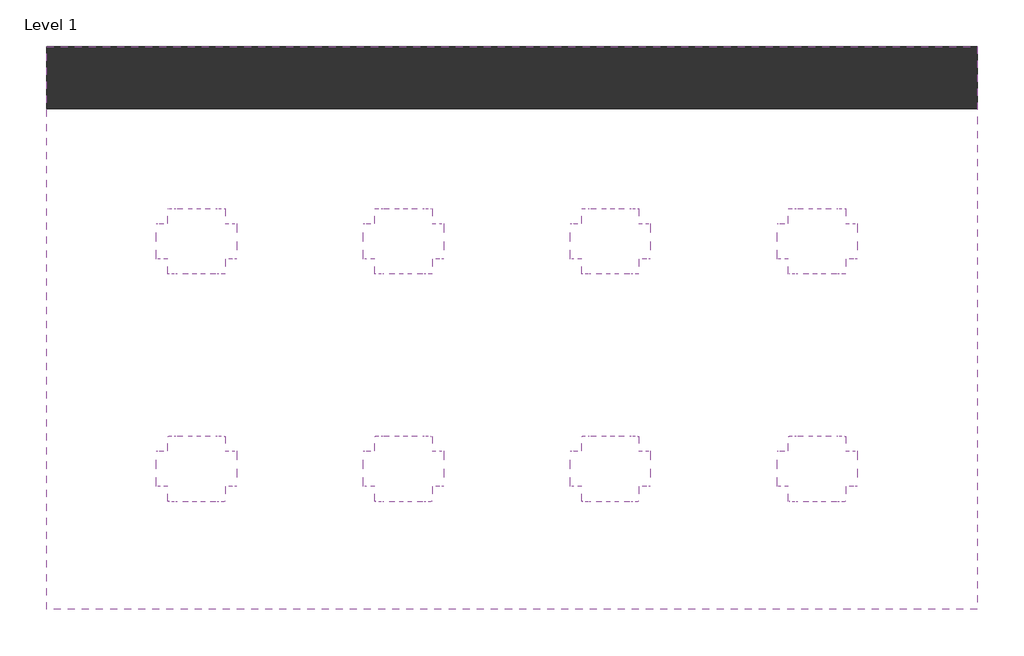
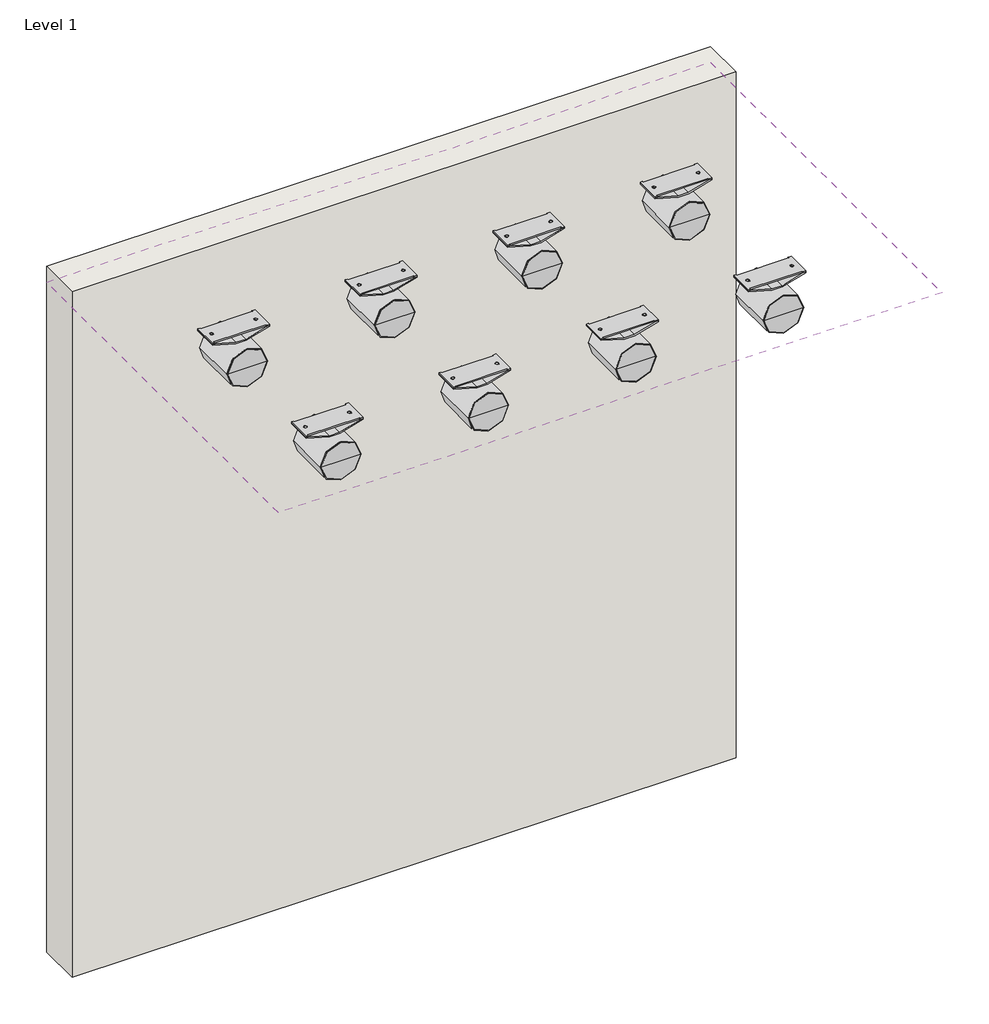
# One storey: 8 proxies, 1 covering, 1 wall.
"""IFC4 building model written with IfcOpenShell, lengths in millimetres."""

import ifcopenshell
import ifcopenshell.guid

model = None  # the IFC model being written
_history = None  # IfcOwnerHistory: only IFC2X3 demands one
_inside = {}  # id of a spatial element -> (the spatial element, [elements in it])
_under = {}  # id of a project, library or spatial element -> (it, [spatial elements below it])
_declared = {}  # id of a project -> (the project, [libraries it declares])
_typed = {}  # id of a type object -> (the type object, [elements of that type])
_made_of = {}  # id of a material, layer set ... -> (it, [elements and type objects made of it])


def new_model(schema):
    """Start an empty IFC model of exactly this schema.

    Asked for "IFC4X3", IfcOpenShell would pick the latest addendum, in which some entities
    have other attributes; the version numbers below select the first issue.
    IFC2X3 requires an IfcOwnerHistory on every rooted entity: one is made here for all.
    """
    global model, _history
    if schema == "IFC4X3":
        model = ifcopenshell.file(schema_version=(4, 3, 0, 0))
    else:
        model = ifcopenshell.file(schema=schema)
    _inside.clear()
    _under.clear()
    _declared.clear()
    _typed.clear()
    _made_of.clear()
    _history = None
    if model.schema == "IFC2X3":
        org = make("IfcOrganization", Name="unknown")
        user = make(
            "IfcPersonAndOrganization",
            ThePerson=make("IfcPerson", FamilyName="unknown"),
            TheOrganization=org,
        )
        app = make(
            "IfcApplication",
            ApplicationDeveloper=org,
            Version="unknown",
            ApplicationFullName="unknown",
            ApplicationIdentifier="unknown",
        )
        _history = make(
            "IfcOwnerHistory",
            OwningUser=user,
            OwningApplication=app,
            ChangeAction="ADDED",
            CreationDate=0,
        )
    return model


def make(cls, **values):
    """One entity of the class cls with the attributes given. An attribute that is None is left unset."""
    return model.create_entity(
        cls, **{name: value for name, value in values.items() if value is not None}
    )


def rooted(cls, **values):
    """An entity with a GlobalId (a new one), such as an element, a storey or a relation."""
    return make(cls, GlobalId=ifcopenshell.guid.new(), OwnerHistory=_history, **values)


def si_unit(unit_type, name, prefix=None):
    """IfcSIUnit, for example si_unit("LENGTHUNIT", "METRE", prefix="MILLI")."""
    return make("IfcSIUnit", UnitType=unit_type, Prefix=prefix, Name=name)


def assignment(units):
    """IfcUnitAssignment: the units of a project."""
    return None if units is None else make("IfcUnitAssignment", Units=units)


def point(xyz):
    """IfcCartesianPoint."""
    return None if xyz is None else make("IfcCartesianPoint", Coordinates=xyz)


def direction(xyz):
    """IfcDirection."""
    return None if xyz is None else make("IfcDirection", DirectionRatios=xyz)


def frame(location, z_axis=None, x_axis=None):
    """IfcAxis2Placement3D, a coordinate frame: its origin and axes. An axis left out is left unset."""
    return make(
        "IfcAxis2Placement3D",
        Location=point(location),
        Axis=direction(z_axis),
        RefDirection=direction(x_axis),
    )


def frame_2d(location, x_axis=None):
    """IfcAxis2Placement2D, a coordinate frame in the plane: its origin and x axis."""
    return make(
        "IfcAxis2Placement2D", Location=point(location), RefDirection=direction(x_axis)
    )


def origin():
    """The frame at (0, 0, 0) with its axes left unset."""
    return frame((0.0, 0.0, 0.0))


def origin_with_axes():
    """The frame at (0, 0, 0) with the z axis (0, 0, 1) and the x axis (1, 0, 0) written out."""
    return frame((0.0, 0.0, 0.0), z_axis=(0.0, 0.0, 1.0), x_axis=(1.0, 0.0, 0.0))


def place(relative_to, where):
    """IfcLocalPlacement: puts the frame where relative to a parent placement (None: the world)."""
    return make(
        "IfcLocalPlacement", PlacementRelTo=relative_to, RelativePlacement=where
    )


def context(
    kind, dimensions, precision=None, world=None, true_north=None, identifier=None
):
    """IfcGeometricRepresentationContext, for example the 3D "Model" context."""
    return make(
        "IfcGeometricRepresentationContext",
        ContextIdentifier=identifier,
        ContextType=kind,
        CoordinateSpaceDimension=dimensions,
        Precision=precision,
        WorldCoordinateSystem=world,
        TrueNorth=true_north,
    )


def project(units=None, contexts=None):
    """IfcProject with its units and contexts."""
    return rooted(
        "IfcProject",
        Name="project",
        RepresentationContexts=contexts,
        UnitsInContext=assignment(units),
    )


def spatial(cls, under=None, at=None, **own):
    """A site, building, storey or space (cls), placed at a placement, below another one or the project."""
    s = rooted(cls, ObjectPlacement=at, **own)
    if under is not None:
        _under.setdefault(under.id(), (under, []))[1].append(s)
    return s


def polyline(points):
    """IfcPolyline through the points."""
    return make("IfcPolyline", Points=[point(p) for p in points])


def circle_curve(where, radius):
    """IfcCircle in the frame where."""
    return make("IfcCircle", Position=where, Radius=radius)


def ellipse_curve(where, semi_axis1, semi_axis2):
    """IfcEllipse in the frame where."""
    return make(
        "IfcEllipse", Position=where, SemiAxis1=semi_axis1, SemiAxis2=semi_axis2
    )


def trimmed(basis, trim1, trim2, sense, master):
    """IfcTrimmedCurve: the piece of a basis curve between two trims."""
    return make(
        "IfcTrimmedCurve",
        BasisCurve=basis,
        Trim1=trim1,
        Trim2=trim2,
        SenseAgreement=sense,
        MasterRepresentation=master,
    )


def segment(curve, same_sense, transition):
    """IfcCompositeCurveSegment."""
    return make(
        "IfcCompositeCurveSegment",
        Transition=transition,
        SameSense=same_sense,
        ParentCurve=curve,
    )


def composite_curve(segments, self_intersect=None):
    """IfcCompositeCurve: segments joined end to end."""
    return make("IfcCompositeCurve", Segments=segments, SelfIntersect=self_intersect)


def outline(outer, holes=None, kind="AREA"):
    """IfcArbitraryClosedProfileDef: a profile drawn as a closed curve; with holes, ...WithVoids."""
    if holes is None:
        return make("IfcArbitraryClosedProfileDef", ProfileType=kind, OuterCurve=outer)
    return make(
        "IfcArbitraryProfileDefWithVoids",
        ProfileType=kind,
        OuterCurve=outer,
        InnerCurves=holes,
    )


def extrude(swept, where, along, depth):
    """IfcExtrudedAreaSolid: the profile swept, set in the frame where, extruded along a direction by depth."""
    return make(
        "IfcExtrudedAreaSolid",
        SweptArea=swept,
        Position=where,
        ExtrudedDirection=direction(along),
        Depth=depth,
    )


def shape(context_of_items, identifier, shape_type, items):
    """IfcShapeRepresentation: the items that make up one representation, for example the "Body"."""
    return make(
        "IfcShapeRepresentation",
        ContextOfItems=context_of_items,
        RepresentationIdentifier=identifier,
        RepresentationType=shape_type,
        Items=items,
    )


def source(mapping_origin, context_of_items, identifier, shape_type, items):
    """IfcRepresentationMap: a shape defined once, which mapped items show again and again."""
    return make(
        "IfcRepresentationMap",
        MappingOrigin=mapping_origin,
        MappedRepresentation=shape(context_of_items, identifier, shape_type, items),
    )


def transform(
    local_origin,
    x_axis=None,
    y_axis=None,
    z_axis=None,
    scale=None,
    scale2=None,
    scale3=None,
    uniform=True,
):
    """IfcCartesianTransformationOperator3D, or its non-uniform kind. x_axis, y_axis, z_axis: its Axis1, 2, 3."""
    if uniform:
        return make(
            "IfcCartesianTransformationOperator3D",
            Axis1=direction(x_axis),
            Axis2=direction(y_axis),
            LocalOrigin=point(local_origin),
            Scale=scale,
            Axis3=direction(z_axis),
        )
    return make(
        "IfcCartesianTransformationOperator3DnonUniform",
        Axis1=direction(x_axis),
        Axis2=direction(y_axis),
        LocalOrigin=point(local_origin),
        Scale=scale,
        Axis3=direction(z_axis),
        Scale2=scale2,
        Scale3=scale3,
    )


def mapped(mapping_source, mapping_target):
    """IfcMappedItem: shows the shape of a source again, moved by a transform."""
    return make(
        "IfcMappedItem", MappingSource=mapping_source, MappingTarget=mapping_target
    )


def made_of(thing, what):
    """Note that an element or type object is made of a material, layer set ...; save() writes the relation."""
    if what is not None:
        _made_of.setdefault(what.id(), (what, []))[1].append(thing)
    return thing


def element(
    cls,
    number,
    at=None,
    inside=None,
    cuts=None,
    type_object=None,
    material=None,
    context=None,
    identifier="Body",
    shape_type=None,
    held_by="IfcProductDefinitionShape",
    body=None,
    shapes=None,
    **own,
):
    """One element of the class cls, such as IfcWall. Its Tag is "e" and its number.

    at: its placement. inside: the storey or other place that contains it. cuts: it is an
    opening in that element (IfcRelVoidsElement). A single representation is given by context,
    identifier, shape_type and body (its items); several are given by shapes. held_by: the class
    of the entity that holds the representations. save() writes the other relations.
    """
    e = rooted(cls, Tag="e%d" % number, ObjectPlacement=at, **own)
    if body is not None:
        shapes = [shape(context, identifier, shape_type, body)]
    if shapes is not None:
        e.Representation = make(held_by, Representations=shapes)
    if inside is not None:
        _inside.setdefault(inside.id(), (inside, []))[1].append(e)
    if cuts is not None:
        rooted(
            "IfcRelVoidsElement", RelatingBuildingElement=cuts, RelatedOpeningElement=e
        )
    if type_object is not None:
        _typed.setdefault(type_object.id(), (type_object, []))[1].append(e)
    return made_of(e, material)


def aggregate(whole, parts):
    """IfcRelAggregates: a whole, such as a stair, and the parts it consists of."""
    return rooted("IfcRelAggregates", RelatingObject=whole, RelatedObjects=parts)


def save(model, path):
    """Write the relations noted so far, then the file.

    IfcRelAggregates (storeys below a building ...), IfcRelContainedInSpatialStructure (elements
    in a storey), IfcRelDefinesByType, IfcRelAssociatesMaterial and IfcRelDeclares: one each for
    every whole, place, type object, material and project.
    """
    for whole, parts in _under.values():
        aggregate(whole, parts)
    for where, things in _inside.values():
        rooted(
            "IfcRelContainedInSpatialStructure",
            RelatedElements=things,
            RelatingStructure=where,
        )
    for kind, things in _typed.values():
        rooted("IfcRelDefinesByType", RelatedObjects=things, RelatingType=kind)
    for what, things in _made_of.values():
        rooted("IfcRelAssociatesMaterial", RelatedObjects=things, RelatingMaterial=what)
    for by, libraries in _declared.values():
        rooted("IfcRelDeclares", RelatingContext=by, RelatedDefinitions=libraries)
    model.write(path)


def plane_surface(at):
    """IfcPlane: the flat surface through the origin of the frame at, square to its z axis."""
    return make("IfcPlane", Position=at)


def cylinder_surface(at, radius):
    """IfcCylindricalSurface: all points at the distance radius from the z axis of the frame at."""
    return make("IfcCylindricalSurface", Position=at, Radius=radius)


def revolved_surface(curve, axis_point, axis_direction):
    """IfcSurfaceOfRevolution: the curve turned about the line through axis_point along axis_direction."""
    return make(
        "IfcSurfaceOfRevolution",
        SweptCurve=make("IfcArbitraryOpenProfileDef", ProfileType="CURVE", Curve=curve),
        AxisPosition=make("IfcAxis1Placement", Location=point(axis_point), Axis=direction(axis_direction)),
    )


def advanced_brep(points, edges, surfaces, faces):
    """IfcAdvancedBrep: a solid bounded by faces that lie on surfaces and meet in shared edges.

    An edge is (start, end): straight between two places in points (the first is 0);
    or (start, end, curve); or (start, end, curve, False) where it runs against its curve.
    A face is (place in surfaces, loops), or (place, loops, False) where it looks against
    its surface's normal. A loop lists edges by number (the first is 1), with a minus sign
    where the edge is run from its end to its start. The first loop is the outer one.
    """
    corners = [point(p) for p in points]
    vertices = [make("IfcVertexPoint", VertexGeometry=c) for c in corners]
    made = []
    for start, end, *more in edges:
        made.append(
            make(
                "IfcEdgeCurve",
                EdgeStart=vertices[start],
                EdgeEnd=vertices[end],
                EdgeGeometry=more[0] if more else make("IfcPolyline", Points=[corners[start], corners[end]]),
                SameSense=more[1] if len(more) > 1 else True,
            )
        )
    hull = []
    for where, loops, *sense in faces:
        bounds = []
        for j, loop in enumerate(loops):
            ring = [make("IfcOrientedEdge", EdgeElement=made[abs(k) - 1], Orientation=k > 0) for k in loop]
            bounds.append(
                make(
                    "IfcFaceOuterBound" if j == 0 else "IfcFaceBound",
                    Bound=make("IfcEdgeLoop", EdgeList=ring),
                    Orientation=True,
                )
            )
        hull.append(make("IfcAdvancedFace", Bounds=bounds, FaceSurface=surfaces[where], SameSense=sense[0] if sense else True))
    return make("IfcAdvancedBrep", Outer=make("IfcClosedShell", CfsFaces=hull))


def communication_devices_d43287d2(model_context):
    return source(origin(), model_context, "Body", "SolidModel", [
        advanced_brep(
        [(-98.5, 36.500062, -2.0), (-18.0, 36.500062, -25.0), (18.0, 36.500062, -25.0), (98.5, 36.500062, -2.0), (98.5, 36.500062, 0.0), (89.5, 36.500062, 0.0), (17.399994, 36.500062, -20.600006), (-17.399994, 36.500062, -20.600006), (-89.5, 36.500062, 0.0), (-98.5, 36.500062, 0.0), (-98.5, 123.500062, -2.0), (-98.5, 123.500062, 0.0), (-89.5, 123.500062, 0.0), (-17.399994, 123.500062, -20.600006), (17.399994, 123.500062, -20.600006), (89.5, 123.500062, 0.0), (98.5, 123.500062, 0.0), (98.5, 123.500062, -2.0), (18.0, 123.500062, -25.0), (-18.0, 123.500062, -25.0), (-81.902063, 80.000001, -6.7422677), (-70.097937, 80.000001, -10.1148751), (70.097937, 80.000001, -10.1148751), (81.902063, 80.000001, -6.7422677), (81.902063, 80.000001, -2.1708396), (70.097937, 80.000001, -5.5434477), (-70.097937, 80.000001, -5.5434477), (-81.902063, 80.000001, -2.1708396)],
        [
            (0, 1),
            (1, 2),
            (2, 3),
            (3, 4),
            (4, 5),
            (5, 6),
            (6, 7),
            (7, 8),
            (8, 9),
            (9, 0),
            (10, 11),
            (11, 12),
            (12, 13),
            (13, 14),
            (14, 15),
            (15, 16),
            (16, 17),
            (17, 18),
            (18, 19),
            (19, 10),
            (0, 10),
            (19, 1),
            (20, 21, ellipse_curve(frame((-76.0, 80.000001, -8.4285714), z_axis=(0.2747211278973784, 0.0, 0.961523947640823), x_axis=(-0.9615239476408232, 0.0, 0.27472112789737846)), 6.1382382, 5.902063)),
            (21, 20, ellipse_curve(frame((-76.0, 80.000001, -8.4285714), z_axis=(0.2747211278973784, 0.0, 0.961523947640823), x_axis=(-0.9615239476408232, 0.0, 0.27472112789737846)), 6.1382382, 5.902063)),
            (18, 2),
            (17, 3),
            (22, 23, ellipse_curve(frame((76.0, 80.000001, -8.4285714), z_axis=(-0.27472112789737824, 0.0, 0.9615239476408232), x_axis=(0.9615239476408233, 0.0, 0.27472112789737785)), 6.1382382, 5.902063)),
            (23, 22, ellipse_curve(frame((76.0, 80.000001, -8.4285714), z_axis=(-0.27472112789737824, 0.0, 0.9615239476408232), x_axis=(0.9615239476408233, 0.0, 0.27472112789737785)), 6.1382382, 5.902063)),
            (16, 4),
            (15, 5),
            (14, 6),
            (24, 25, ellipse_curve(frame((76.0, 80.000001, -3.8571437), z_axis=(0.27472118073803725, 0.0, -0.9615239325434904), x_axis=(0.9615239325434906, 0.0, 0.27472118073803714)), 6.1382383, 5.902063)),
            (25, 24, ellipse_curve(frame((76.0, 80.000001, -3.8571437), z_axis=(0.27472118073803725, 0.0, -0.9615239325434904), x_axis=(0.9615239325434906, 0.0, 0.27472118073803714)), 6.1382383, 5.902063)),
            (13, 7),
            (12, 8),
            (26, 27, ellipse_curve(frame((-76.0, 80.000001, -3.8571437), z_axis=(-0.27472118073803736, 0.0, -0.9615239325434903), x_axis=(-0.9615239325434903, 0.0, 0.27472118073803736)), 6.1382383, 5.902063)),
            (27, 26, ellipse_curve(frame((-76.0, 80.000001, -3.8571437), z_axis=(-0.27472118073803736, 0.0, -0.9615239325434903), x_axis=(-0.9615239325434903, 0.0, 0.27472118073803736)), 6.1382383, 5.902063)),
            (11, 9),
            (20, 27),
            (26, 21),
            (22, 25),
            (24, 23),
        ],
        [
            plane_surface(frame((-98.5, 36.500062, -2.0), z_axis=(0.0, -1.0, 0.0), x_axis=(0.961523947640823, 0.0, -0.2747211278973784))),
            plane_surface(frame((-98.5, 123.500062, -2.0), z_axis=(0.0, 1.0, 0.0), x_axis=(-0.961523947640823, 0.0, 0.2747211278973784))),
            plane_surface(frame((-98.5, 36.500062, -2.0), z_axis=(-0.2747211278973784, 0.0, -0.961523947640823), x_axis=(0.0, 1.0, 0.0))),
            plane_surface(frame((-18.0, 36.500062, -25.0), z_axis=(0.0, 0.0, -1.0), x_axis=(0.0, 1.0, 0.0))),
            plane_surface(frame((18.0, 36.500062, -25.0), z_axis=(0.27472112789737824, 0.0, -0.9615239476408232), x_axis=(0.0, 1.0, 0.0))),
            plane_surface(frame((98.5, 36.500062, -2.0), z_axis=(1.0, 0.0, 0.0), x_axis=(0.0, 1.0, 0.0))),
            plane_surface(frame((98.5, 36.500062, 0.0), z_axis=(0.0, 0.0, 1.0), x_axis=(0.0, 1.0, 0.0))),
            plane_surface(frame((89.5, 36.500062, 0.0), z_axis=(-0.27472118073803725, 0.0, 0.9615239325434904), x_axis=(0.0, 1.0, 0.0))),
            plane_surface(frame((17.399994, 36.500062, -20.600006), z_axis=(0.0, 0.0, 1.0), x_axis=(0.0, 1.0, 0.0))),
            plane_surface(frame((-17.399994, 36.500062, -20.600006), z_axis=(0.27472118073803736, 0.0, 0.9615239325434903), x_axis=(0.0, 1.0, 0.0))),
            plane_surface(frame((-89.5, 36.500062, 0.0), z_axis=(0.0, 0.0, 1.0), x_axis=(0.0, 1.0, 0.0))),
            plane_surface(frame((-98.5, 36.500062, 0.0), z_axis=(-1.0, 0.0, 0.0), x_axis=(0.0, 1.0, 0.0))),
            revolved_surface(polyline([(-70.097937, 80.000001, -2.1708396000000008), (-70.097937, 80.000001, -10.114875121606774)]), (-76.0, 80.000001, -25.0), (0.0, 0.0, 1.0)),
            revolved_surface(polyline([(70.097937, 80.000001, -2.1708396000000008), (70.097937, 80.000001, -10.114875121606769)]), (76.0, 80.000001, -25.0), (0.0, 0.0, 1.0)),
        ],
        [
            (0, [[1, 2, 3, 4, 5, 6, 7, 8, 9, 10]]),
            (1, [[11, 12, 13, 14, 15, 16, 17, 18, 19, 20]]),
            (2, [[-1, 21, -20, 22], [23, 24]]),
            (3, [[-2, -22, -19, 25]]),
            (4, [[-3, -25, -18, 26], [27, 28]]),
            (5, [[-4, -26, -17, 29]]),
            (6, [[-5, -29, -16, 30]]),
            (7, [[-6, -30, -15, 31], [32, 33]]),
            (8, [[-7, -31, -14, 34]]),
            (9, [[-8, -34, -13, 35], [36, 37]]),
            (10, [[-9, -35, -12, 38]]),
            (11, [[-10, -38, -11, -21]]),
            (12, [[39, -36, 40, -23]]),
            (12, [[-39, -24, -40, -37]]),
            (13, [[41, -32, 42, -27]]),
            (13, [[-41, -28, -42, -33]]),
        ],
    ),
        advanced_brep(
        [(-79.999999, 80.000001, -7.2857146), (-72.000001, 80.000001, -9.5714283), (-72.000001, 80.000001, -5.0000008), (-79.999999, 80.000001, -2.7142866)],
        [
            (0, 1, ellipse_curve(frame((-76.0, 80.000001, -8.4285714), z_axis=(-0.2747211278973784, 0.0, -0.961523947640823), x_axis=(0.9615239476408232, 0.0, -0.27472112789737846)), 4.1600618, 3.999999)),
            (1, 0, ellipse_curve(frame((-76.0, 80.000001, -8.4285714), z_axis=(-0.2747211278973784, 0.0, -0.961523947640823), x_axis=(0.9615239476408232, 0.0, -0.27472112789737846)), 4.1600618, 3.999999)),
            (2, 3, ellipse_curve(frame((-76.0, 80.000001, -3.8571437), z_axis=(0.27472118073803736, 0.0, 0.9615239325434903), x_axis=(0.9615239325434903, 0.0, -0.27472118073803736)), 4.1600618, 3.999999)),
            (3, 2, ellipse_curve(frame((-76.0, 80.000001, -3.8571437), z_axis=(0.27472118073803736, 0.0, 0.9615239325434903), x_axis=(0.9615239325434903, 0.0, -0.27472118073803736)), 4.1600618, 3.999999)),
            (0, 3),
            (2, 1),
        ],
        [
            plane_surface(frame((-98.5, 36.500062, -2.0), z_axis=(-0.2747211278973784, 0.0, -0.961523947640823), x_axis=(0.0, 1.0, 0.0))),
            plane_surface(frame((-17.399994, 36.500062, -20.600006), z_axis=(0.27472118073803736, 0.0, 0.9615239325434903), x_axis=(0.0, 1.0, 0.0))),
            cylinder_surface(frame((-76.0, 80.000001, 0.0), z_axis=(0.0, 0.0, -1.0), x_axis=(1.0, 0.0, 0.0)), 3.999999),
        ],
        [
            (0, [[1, 2]]),
            (1, [[3, 4]]),
            (2, [[5, -3, 6, -1]]),
            (2, [[-5, -2, -6, -4]]),
        ],
    ),
        advanced_brep(
        [(72.000001, 80.000001, -9.5714283), (79.999999, 80.000001, -7.2857146), (79.999999, 80.000001, -2.7142866), (72.000001, 80.000001, -5.0000008)],
        [
            (0, 1, ellipse_curve(frame((76.0, 80.000001, -8.4285714), z_axis=(0.27472112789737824, 0.0, -0.9615239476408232), x_axis=(-0.9615239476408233, 0.0, -0.27472112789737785)), 4.1600618, 3.999999)),
            (1, 0, ellipse_curve(frame((76.0, 80.000001, -8.4285714), z_axis=(0.27472112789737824, 0.0, -0.9615239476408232), x_axis=(-0.9615239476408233, 0.0, -0.27472112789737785)), 4.1600618, 3.999999)),
            (2, 3, ellipse_curve(frame((76.0, 80.000001, -3.8571437), z_axis=(-0.27472118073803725, 0.0, 0.9615239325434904), x_axis=(-0.9615239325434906, 0.0, -0.27472118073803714)), 4.1600618, 3.999999)),
            (3, 2, ellipse_curve(frame((76.0, 80.000001, -3.8571437), z_axis=(-0.27472118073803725, 0.0, 0.9615239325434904), x_axis=(-0.9615239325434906, 0.0, -0.27472118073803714)), 4.1600618, 3.999999)),
            (0, 3),
            (2, 1),
        ],
        [
            plane_surface(frame((18.0, 36.500062, -25.0), z_axis=(0.27472112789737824, 0.0, -0.9615239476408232), x_axis=(0.0, 1.0, 0.0))),
            plane_surface(frame((89.5, 36.500062, 0.0), z_axis=(-0.27472118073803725, 0.0, 0.9615239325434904), x_axis=(0.0, 1.0, 0.0))),
            cylinder_surface(frame((76.0, 80.000001, 0.0), z_axis=(0.0, 0.0, -1.0), x_axis=(-1.0, 0.0, 0.0)), 3.999999),
        ],
        [
            (0, [[1, 2]]),
            (1, [[3, 4]]),
            (2, [[5, -3, 6, -1]]),
            (2, [[-5, -2, -6, -4]]),
        ],
    ),
        extrude(outline(polyline([(-91.31009, 119.699998), (87.68991, 119.699998), (87.68991, 123.500062), (98.5, 123.500062), (98.5, 36.500062), (87.68991, 36.500062), (87.68991, 40.300004), (-91.31009, 40.300004), (-91.31009, 36.500062), (-98.5, 36.500062), (-98.5, 123.500062), (-91.31009, 123.500062), (-91.31009, 119.699998)]), holes=[composite_curve([segment(trimmed(circle_curve(frame_2d((-76.0, 80.000001)), 5.902063), [point((-81.902063, 80.000001))], [point((-70.097937, 80.000001))], True, "CARTESIAN"), True, "CONTINUOUS"), segment(trimmed(circle_curve(frame_2d((-76.0, 80.000001)), 5.902063), [point((-70.097937, 80.000001))], [point((-81.902063, 80.000001))], True, "CARTESIAN"), True, "CONTINUOUS")], self_intersect=False), composite_curve([segment(trimmed(circle_curve(frame_2d((76.0, 80.000001)), 5.902063), [point((70.097937, 80.000001))], [point((81.902063, 80.000001))], True, "CARTESIAN"), True, "CONTINUOUS"), segment(trimmed(circle_curve(frame_2d((76.0, 80.000001)), 5.902063), [point((81.902063, 80.000001))], [point((70.097937, 80.000001))], True, "CARTESIAN"), True, "CONTINUOUS")], self_intersect=False)]), origin_with_axes(), (0.0, 0.0, 1.0), 5.0),
        extrude(outline(composite_curve([segment(trimmed(circle_curve(frame_2d((-76.0, 80.000001)), 3.999999), [point((-79.999999, 80.000001))], [point((-72.000001, 80.000001))], False, "CARTESIAN"), True, "CONTINUOUS"), segment(trimmed(circle_curve(frame_2d((-76.0, 80.000001)), 3.999999), [point((-72.000001, 80.000001))], [point((-79.999999, 80.000001))], False, "CARTESIAN"), True, "CONTINUOUS")], self_intersect=False)), origin_with_axes(), (0.0, 0.0, 1.0), 5.0),
        extrude(outline(composite_curve([segment(trimmed(circle_curve(frame_2d((76.0, 80.000001)), 3.999999), [point((72.000001, 80.000001))], [point((79.999999, 80.000001))], False, "CARTESIAN"), True, "CONTINUOUS"), segment(trimmed(circle_curve(frame_2d((76.0, 80.000001)), 3.999999), [point((79.999999, 80.000001))], [point((72.000001, 80.000001))], False, "CARTESIAN"), True, "CONTINUOUS")], self_intersect=False)), origin_with_axes(), (0.0, 0.0, 1.0), 5.0),
        advanced_brep(
        [(67.5, 160.0, -95.5), (-67.5, 160.0, -95.5), (-67.5, 160.8609376, -95.5), (67.5, 160.8609376, -95.5), (0.0, 160.0, -95.5), (0.0, 160.8609376, -95.5)],
        [
            (0, 1, circle_curve(frame((0.0, 160.0, -95.5), z_axis=(0.0, 1.0, 0.0), x_axis=(-1.0, 0.0, 0.0)), 67.5)),
            (1, 2),
            (2, 3, circle_curve(frame((0.0, 160.8609376, -95.5), z_axis=(0.0, -1.0, 0.0), x_axis=(-1.0, 0.0, 0.0)), 67.5)),
            (3, 0),
            (1, 0, circle_curve(frame((0.0, 160.0, -95.5), z_axis=(0.0, 1.0, 0.0), x_axis=(-1.0, 0.0, 0.0)), 67.5)),
            (3, 2, circle_curve(frame((0.0, 160.8609376, -95.5), z_axis=(0.0, -1.0, 0.0), x_axis=(-1.0, 0.0, 0.0)), 67.5)),
            (4, 1),
            (0, 4),
            (2, 5),
            (5, 3),
        ],
        [
            cylinder_surface(frame((0.0, 160.8609376, -95.5), z_axis=(0.0, -1.0, 0.0), x_axis=(-1.0, 0.0, 0.0)), 67.5),
            plane_surface(frame((0.0, 160.0, -95.5), z_axis=(0.0, -1.0, 0.0), x_axis=(-1.0, 0.0, 0.0))),
            plane_surface(frame((0.0, 160.8609376, -95.5), z_axis=(0.0, 1.0, 0.0), x_axis=(-1.0, 0.0, 0.0))),
        ],
        [
            (0, [[1, 2, 3, 4]]),
            (0, [[5, -4, 6, -2]]),
            (1, [[7, -1, 8]]),
            (1, [[-8, -5, -7]]),
            (2, [[-3, 9, 10]]),
            (2, [[-6, -10, -9]]),
        ],
    ),
        advanced_brep(
        [(0.0, -0.8608136, -95.5), (-67.5, -0.8608136, -95.5), (67.5, -0.8608136, -95.5), (67.5, 0.000124, -95.5), (-67.5, 0.000124, -95.5), (0.0, 0.000124, -95.5)],
        [
            (0, 1),
            (1, 2, circle_curve(frame((0.0, -0.8608136, -95.5), z_axis=(0.0, -1.0, 0.0), x_axis=(-1.0, 0.0, 0.0)), 67.5)),
            (2, 0),
            (2, 1, circle_curve(frame((0.0, -0.8608136, -95.5), z_axis=(0.0, -1.0, 0.0), x_axis=(-1.0, 0.0, 0.0)), 67.5)),
            (3, 4, circle_curve(frame((0.0, 0.000124, -95.5), z_axis=(0.0, 1.0, 0.0), x_axis=(-1.0, 0.0, 0.0)), 67.5)),
            (4, 5),
            (5, 3),
            (4, 3, circle_curve(frame((0.0, 0.000124, -95.5), z_axis=(0.0, 1.0, 0.0), x_axis=(-1.0, 0.0, 0.0)), 67.5)),
            (1, 4),
            (3, 2),
        ],
        [
            plane_surface(frame((0.0, -0.8608136, -95.5), z_axis=(0.0, -1.0, 0.0), x_axis=(-1.0, 0.0, 0.0))),
            plane_surface(frame((0.0, 0.000124, -95.5), z_axis=(0.0, 1.0, 0.0), x_axis=(-1.0, 0.0, 0.0))),
            cylinder_surface(frame((0.0, 160.8609376, -95.5), z_axis=(0.0, -1.0, 0.0), x_axis=(-1.0, 0.0, 0.0)), 67.5),
        ],
        [
            (0, [[1, 2, 3]]),
            (0, [[-3, 4, -1]]),
            (1, [[5, 6, 7]]),
            (1, [[8, -7, -6]]),
            (2, [[-2, 9, -5, 10]]),
            (2, [[-4, -10, -8, -9]]),
        ],
    ),
        advanced_brep(
        [(0.0, 0.0, -95.5), (-70.5, 0.0, -95.5), (70.5, 0.0, -95.5), (70.5, 160.0, -95.5), (-70.5, 160.0, -95.5), (0.0, 160.0, -95.5)],
        [
            (0, 1),
            (1, 2, circle_curve(frame((0.0, 0.0, -95.5), z_axis=(0.0, -1.0, 0.0), x_axis=(-1.0, 0.0, 0.0)), 70.5)),
            (2, 0),
            (2, 1, circle_curve(frame((0.0, 0.0, -95.5), z_axis=(0.0, -1.0, 0.0), x_axis=(-1.0, 0.0, 0.0)), 70.5)),
            (3, 4, circle_curve(frame((0.0, 160.0, -95.5), z_axis=(0.0, 1.0, 0.0), x_axis=(-1.0, 0.0, 0.0)), 70.5)),
            (4, 5),
            (5, 3),
            (4, 3, circle_curve(frame((0.0, 160.0, -95.5), z_axis=(0.0, 1.0, 0.0), x_axis=(-1.0, 0.0, 0.0)), 70.5)),
            (1, 4),
            (3, 2),
        ],
        [
            plane_surface(frame((0.0, 0.0, -95.5), z_axis=(0.0, -1.0, 0.0), x_axis=(-1.0, 0.0, 0.0))),
            plane_surface(frame((0.0, 160.0, -95.5), z_axis=(0.0, 1.0, 0.0), x_axis=(-1.0, 0.0, 0.0))),
            cylinder_surface(frame((0.0, 155.0, -95.5), z_axis=(0.0, -1.0, 0.0), x_axis=(-1.0, 0.0, 0.0)), 70.5),
        ],
        [
            (0, [[1, 2, 3]]),
            (0, [[-3, 4, -1]]),
            (1, [[5, 6, 7]]),
            (1, [[8, -7, -6]]),
            (2, [[-2, 9, -5, 10]]),
            (2, [[-4, -10, -8, -9]]),
        ],
    ),
    ])


model = new_model("IFC4")

# Units and contexts
model_context = context("Model", 3, world=origin())
ifc_project = project(units=[si_unit("LENGTHUNIT", "METRE", prefix="MILLI")], contexts=[model_context])

# Site, building, storey
site = spatial("IfcSite", under=ifc_project)
building = spatial("IfcBuilding", under=site)
storey = spatial("IfcBuildingStorey", under=building, Name="Level 1", Elevation=0.0)

# Proxies
placement = place(None, origin())
communication_devices_shape = communication_devices_d43287d2(model_context)
element("IfcBuildingElementProxy", 1, Name="DA 10-260_T-EN54 : DA 10-260_T-EN54", ObjectType="DA 10-260_T-EN54 : DA 10-260_T-EN54", at=placement, inside=storey, context=model_context, shape_type="MappedRepresentation", body=[
    mapped(communication_devices_shape, transform((2201.4973575, 1556.7766815, 2433.4), x_axis=(1.0, 0.0, 0.0), y_axis=(0.0, 1.0, 0.0), z_axis=(0.0, 0.0, 1.0))),
])
element("IfcBuildingElementProxy", 2, Name="DA 10-260_T-EN54 : DA 10-260_T-EN54", ObjectType="DA 10-260_T-EN54 : DA 10-260_T-EN54", at=placement, inside=storey, context=model_context, shape_type="MappedRepresentation", body=[
    mapped(communication_devices_shape, transform((2709.4973575, 997.9766815, 2433.4), x_axis=(1.0, 0.0, 0.0), y_axis=(0.0, 1.0, 0.0), z_axis=(0.0, 0.0, 1.0))),
])
element("IfcBuildingElementProxy", 3, Name="DA 10-260_T-EN54 : DA 10-260_T-EN54", ObjectType="DA 10-260_T-EN54 : DA 10-260_T-EN54", at=placement, inside=storey, context=model_context, shape_type="MappedRepresentation", body=[
    mapped(communication_devices_shape, transform((3217.4973575, 997.9766815, 2433.4), x_axis=(1.0, 0.0, 0.0), y_axis=(0.0, 1.0, 0.0), z_axis=(0.0, 0.0, 1.0))),
])
element("IfcBuildingElementProxy", 4, Name="DA 10-260_T-EN54 : DA 10-260_T-EN54", ObjectType="DA 10-260_T-EN54 : DA 10-260_T-EN54", at=placement, inside=storey, context=model_context, shape_type="MappedRepresentation", body=[
    mapped(communication_devices_shape, transform((3725.4973575, 997.9766815, 2433.4), x_axis=(1.0, 0.0, 0.0), y_axis=(0.0, 1.0, 0.0), z_axis=(0.0, 0.0, 1.0))),
])
element("IfcBuildingElementProxy", 5, Name="DA 10-260_T-EN54 : DA 10-260_T-EN54", ObjectType="DA 10-260_T-EN54 : DA 10-260_T-EN54", at=placement, inside=storey, context=model_context, shape_type="MappedRepresentation", body=[
    mapped(communication_devices_shape, transform((2709.4973575, 1556.7766815, 2433.4), x_axis=(1.0, 0.0, 0.0), y_axis=(0.0, 1.0, 0.0), z_axis=(0.0, 0.0, 1.0))),
])
element("IfcBuildingElementProxy", 6, Name="DA 10-260_T-EN54 : DA 10-260_T-EN54", ObjectType="DA 10-260_T-EN54 : DA 10-260_T-EN54", at=placement, inside=storey, context=model_context, shape_type="MappedRepresentation", body=[
    mapped(communication_devices_shape, transform((3217.4973575, 1556.7766815, 2433.4), x_axis=(1.0, 0.0, 0.0), y_axis=(0.0, 1.0, 0.0), z_axis=(0.0, 0.0, 1.0))),
])
element("IfcBuildingElementProxy", 7, Name="DA 10-260_T-EN54 : DA 10-260_T-EN54", ObjectType="DA 10-260_T-EN54 : DA 10-260_T-EN54", at=placement, inside=storey, context=model_context, shape_type="MappedRepresentation", body=[
    mapped(communication_devices_shape, transform((3725.4973575, 1556.7766815, 2433.4), x_axis=(1.0, 0.0, 0.0), y_axis=(0.0, 1.0, 0.0), z_axis=(0.0, 0.0, 1.0))),
])
element("IfcBuildingElementProxy", 8, Name="DA 10-260_T-EN54 : DA 10-260_T-EN54", ObjectType="DA 10-260_T-EN54 : DA 10-260_T-EN54", at=placement, inside=storey, context=model_context, shape_type="MappedRepresentation", body=[
    mapped(communication_devices_shape, transform((2201.4973575, 997.9766815, 2433.4), x_axis=(1.0, 0.0, 0.0), y_axis=(0.0, 1.0, 0.0), z_axis=(0.0, 0.0, 1.0))),
])

# Covering
element("IfcCovering", 9, ObjectType="2' x 4' ACT System", at=placement, inside=storey, context=model_context, shape_type="SweptSolid", body=[
    extrude(outline(polyline([(4119.1973575, 2115.5766815), (4119.1973575, 732.2741036), (1833.1973575, 732.2741036), (1833.1973575, 2115.5766815), (4119.1973575, 2115.5766815)])), frame((0.0, 0.0, 2438.4), z_axis=(0.0, 0.0, 1.0), x_axis=(1.0, 0.0, 0.0)), (0.0, 0.0, 1.0), 57.15),
])

# Wall
element("IfcWall", 10, ObjectType="Exterior - 6\" Generic", at=placement, inside=storey, context=model_context, shape_type="SweptSolid", body=[
    extrude(outline(polyline([(4119.1973575, 1963.1766815), (1833.1973575, 1963.1766815), (1833.1973575, 2115.5766815), (4119.1973575, 2115.5766815), (4119.1973575, 1963.1766815)])), origin_with_axes(), (0.0, 0.0, 1.0), 2495.55),
])

save(model, "model.ifc")
